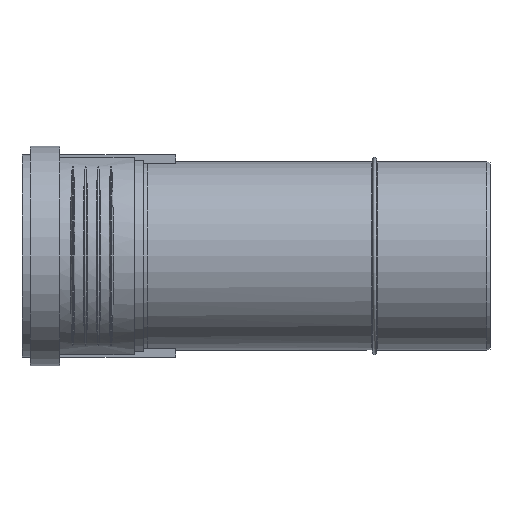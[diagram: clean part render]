
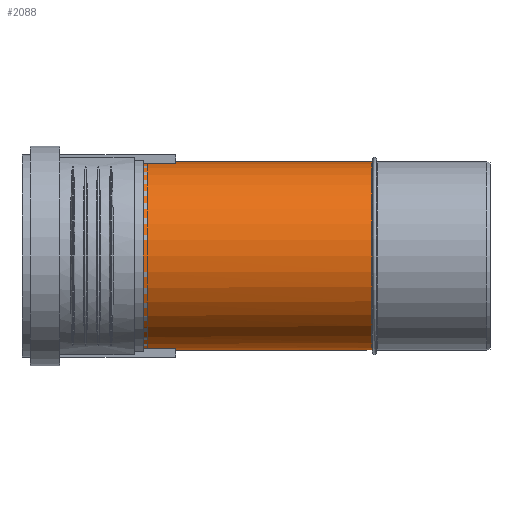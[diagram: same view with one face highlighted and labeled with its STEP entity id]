
A CAD part, left-side view. The second image highlights one B-rep face of the part: STEP entity #2088.
In plain terms, the highlighted cylindrical face has radius 62.6 mm (diameter 125.2 mm), a full revolution.
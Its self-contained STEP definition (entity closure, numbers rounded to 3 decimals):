
#266=CYLINDRICAL_SURFACE($,#2236,62.6);
#437=FACE_BOUND($,#740,.T.);
#498=B_SPLINE_CURVE_WITH_KNOTS($,3,(#3146,#3147,#3148,#3149,#3150,#3151,
#3152,#3153,#3154,#3155,#3156,#3157,#3158,#3159,#3160,#3161,#3162,#3163,
#3164,#3165,#3166,#3167,#3168,#3169,#3170,#3171,#3172,#3173,#3174,#3175,
#3176,#3177,#3178,#3179,#3180,#3181,#3182,#3183,#3184,#3185,#3186,#3187,
#3188,#3189,#3190,#3191,#3192,#3193,#3194,#3195,#3196,#3197,#3198,#3199,
#3200,#3201,#3202,#3203,#3204,#3205,#3206,#3207,#3208,#3209,#3210,#3211),
 .UNSPECIFIED.,.F.,.F.,(4,2,2,2,2,2,2,2,2,2,2,2,2,2,2,2,2,2,2,2,2,2,2,2,
2,2,2,2,2,2,2,2,4),(14.294,14.561,15.94,
17.319,18.478,19.636,21.952,23.94,
25.928,26.484,27.04,27.596,28.153,
28.657,29.162,29.667,30.172,31.263,
32.355,33.446,34.537,35.629,36.72,
37.811,38.903,39.408,39.912,40.417,
40.922,41.478,42.034,42.591,43.147),
 .UNSPECIFIED.);
#499=B_SPLINE_CURVE_WITH_KNOTS($,3,(#3212,#3213,#3214,#3215,#3216,#3217,
#3218,#3219,#3220,#3221,#3222,#3223,#3224,#3225,#3226,#3227,#3228,#3229),
 .UNSPECIFIED.,.F.,.F.,(4,2,2,2,2,2,2,2,4),(0.,1.988,3.976,
6.292,7.45,8.609,9.988,11.367,
11.634),.UNSPECIFIED.);
#609=FACE_OUTER_BOUND($,#739,.T.);
#739=EDGE_LOOP($,(#1526));
#740=EDGE_LOOP($,(#1527,#1528,#1529));
#913=CIRCLE($,#2224,62.6);
#919=CIRCLE($,#2235,62.6);
#1015=VERTEX_POINT($,#3111);
#1020=VERTEX_POINT($,#3125);
#1021=VERTEX_POINT($,#3126);
#1022=VERTEX_POINT($,#3145);
#1227=EDGE_CURVE($,#1015,#1015,#913,.T.);
#1234=EDGE_CURVE($,#1020,#1021,#919,.T.);
#1235=EDGE_CURVE($,#1021,#1022,#498,.T.);
#1236=EDGE_CURVE($,#1022,#1020,#499,.T.);
#1526=ORIENTED_EDGE($,*,*,#1227,.T.);
#1527=ORIENTED_EDGE($,*,*,#1234,.T.);
#1528=ORIENTED_EDGE($,*,*,#1235,.T.);
#1529=ORIENTED_EDGE($,*,*,#1236,.T.);
#2088=ADVANCED_FACE($,(#609,#437),#266,.T.);
#2224=AXIS2_PLACEMENT_3D($,#3112,#2476,#2477);
#2235=AXIS2_PLACEMENT_3D($,#3143,#2498,#2499);
#2236=AXIS2_PLACEMENT_3D($,#3144,#2500,#2501);
#2476=DIRECTION('center_axis',(0.,1.,0.));
#2477=DIRECTION('ref_axis',(1.,0.,0.));
#2498=DIRECTION('center_axis',(0.,-1.,0.));
#2499=DIRECTION('ref_axis',(1.,0.,0.));
#2500=DIRECTION('center_axis',(0.,1.,0.));
#2501=DIRECTION('ref_axis',(1.,0.,0.));
#3111=CARTESIAN_POINT('',(-62.6,78.5,0.));
#3112=CARTESIAN_POINT('Origin',(0.,78.5,0.));
#3125=CARTESIAN_POINT('',(61.175,231.22,13.282));
#3126=CARTESIAN_POINT('',(61.175,231.22,-13.282));
#3143=CARTESIAN_POINT('Origin',(0.,231.22,0.));
#3144=CARTESIAN_POINT('Origin',(0.,0.,0.));
#3145=CARTESIAN_POINT('',(29.711,124.131,55.1));
#3146=CARTESIAN_POINT('Ctrl Pts',(61.175,231.22,-13.282));
#3147=CARTESIAN_POINT('Ctrl Pts',(61.002,230.767,-14.079));
#3148=CARTESIAN_POINT('Ctrl Pts',(60.82,230.29,-14.843));
#3149=CARTESIAN_POINT('Ctrl Pts',(59.677,227.292,-19.295));
#3150=CARTESIAN_POINT('Ctrl Pts',(58.406,223.949,-22.777));
#3151=CARTESIAN_POINT('Ctrl Pts',(55.629,216.572,-28.904));
#3152=CARTESIAN_POINT('Ctrl Pts',(54.126,212.543,-31.557));
#3153=CARTESIAN_POINT('Ctrl Pts',(51.552,205.562,-35.579));
#3154=CARTESIAN_POINT('Ctrl Pts',(50.301,202.138,-37.321));
#3155=CARTESIAN_POINT('Ctrl Pts',(47.728,194.99,-40.56));
#3156=CARTESIAN_POINT('Ctrl Pts',(46.406,191.267,-42.057));
#3157=CARTESIAN_POINT('Ctrl Pts',(42.47,179.931,-46.145));
#3158=CARTESIAN_POINT('Ctrl Pts',(39.886,172.148,-48.326));
#3159=CARTESIAN_POINT('Ctrl Pts',(35.819,158.735,-51.394));
#3160=CARTESIAN_POINT('Ctrl Pts',(33.872,151.838,-52.675));
#3161=CARTESIAN_POINT('Ctrl Pts',(30.817,137.848,-54.519));
#3162=CARTESIAN_POINT('Ctrl Pts',(29.711,130.757,-55.1));
#3163=CARTESIAN_POINT('Ctrl Pts',(29.711,122.277,-55.1));
#3164=CARTESIAN_POINT('Ctrl Pts',(29.799,120.337,-55.053));
#3165=CARTESIAN_POINT('Ctrl Pts',(30.237,116.434,-54.814));
#3166=CARTESIAN_POINT('Ctrl Pts',(30.588,114.471,-54.621));
#3167=CARTESIAN_POINT('Ctrl Pts',(31.588,110.666,-54.049));
#3168=CARTESIAN_POINT('Ctrl Pts',(32.238,108.82,-53.668));
#3169=CARTESIAN_POINT('Ctrl Pts',(33.778,105.361,-52.712));
#3170=CARTESIAN_POINT('Ctrl Pts',(34.667,103.748,-52.137));
#3171=CARTESIAN_POINT('Ctrl Pts',(36.45,100.953,-50.904));
#3172=CARTESIAN_POINT('Ctrl Pts',(37.399,99.648,-50.216));
#3173=CARTESIAN_POINT('Ctrl Pts',(39.422,97.158,-48.645));
#3174=CARTESIAN_POINT('Ctrl Pts',(40.493,95.973,-47.761));
#3175=CARTESIAN_POINT('Ctrl Pts',(42.662,93.757,-45.835));
#3176=CARTESIAN_POINT('Ctrl Pts',(43.759,92.726,-44.791));
#3177=CARTESIAN_POINT('Ctrl Pts',(45.888,90.834,-42.607));
#3178=CARTESIAN_POINT('Ctrl Pts',(46.92,89.972,-41.467));
#3179=CARTESIAN_POINT('Ctrl Pts',(49.964,87.527,-37.852));
#3180=CARTESIAN_POINT('Ctrl Pts',(51.998,86.044,-35.041));
#3181=CARTESIAN_POINT('Ctrl Pts',(55.657,83.498,-28.878));
#3182=CARTESIAN_POINT('Ctrl Pts',(57.282,82.433,-25.527));
#3183=CARTESIAN_POINT('Ctrl Pts',(59.921,80.742,-18.501));
#3184=CARTESIAN_POINT('Ctrl Pts',(60.938,80.114,-14.82));
#3185=CARTESIAN_POINT('Ctrl Pts',(62.277,79.291,-7.388));
#3186=CARTESIAN_POINT('Ctrl Pts',(62.6,79.097,-3.638));
#3187=CARTESIAN_POINT('Ctrl Pts',(62.6,79.097,3.638));
#3188=CARTESIAN_POINT('Ctrl Pts',(62.277,79.291,7.388));
#3189=CARTESIAN_POINT('Ctrl Pts',(60.938,80.114,14.82));
#3190=CARTESIAN_POINT('Ctrl Pts',(59.921,80.742,18.501));
#3191=CARTESIAN_POINT('Ctrl Pts',(57.282,82.433,25.527));
#3192=CARTESIAN_POINT('Ctrl Pts',(55.657,83.498,28.878));
#3193=CARTESIAN_POINT('Ctrl Pts',(51.998,86.044,35.041));
#3194=CARTESIAN_POINT('Ctrl Pts',(49.964,87.527,37.852));
#3195=CARTESIAN_POINT('Ctrl Pts',(46.92,89.972,41.467));
#3196=CARTESIAN_POINT('Ctrl Pts',(45.888,90.834,42.607));
#3197=CARTESIAN_POINT('Ctrl Pts',(43.759,92.726,44.791));
#3198=CARTESIAN_POINT('Ctrl Pts',(42.662,93.757,45.835));
#3199=CARTESIAN_POINT('Ctrl Pts',(40.493,95.973,47.761));
#3200=CARTESIAN_POINT('Ctrl Pts',(39.422,97.158,48.645));
#3201=CARTESIAN_POINT('Ctrl Pts',(37.399,99.648,50.216));
#3202=CARTESIAN_POINT('Ctrl Pts',(36.45,100.953,50.904));
#3203=CARTESIAN_POINT('Ctrl Pts',(34.667,103.748,52.137));
#3204=CARTESIAN_POINT('Ctrl Pts',(33.778,105.361,52.712));
#3205=CARTESIAN_POINT('Ctrl Pts',(32.238,108.82,53.668));
#3206=CARTESIAN_POINT('Ctrl Pts',(31.588,110.666,54.049));
#3207=CARTESIAN_POINT('Ctrl Pts',(30.588,114.471,54.621));
#3208=CARTESIAN_POINT('Ctrl Pts',(30.237,116.434,54.814));
#3209=CARTESIAN_POINT('Ctrl Pts',(29.799,120.337,55.053));
#3210=CARTESIAN_POINT('Ctrl Pts',(29.711,122.277,55.1));
#3211=CARTESIAN_POINT('Ctrl Pts',(29.711,124.131,55.1));
#3212=CARTESIAN_POINT('Ctrl Pts',(29.711,124.131,55.1));
#3213=CARTESIAN_POINT('Ctrl Pts',(29.711,130.757,55.1));
#3214=CARTESIAN_POINT('Ctrl Pts',(30.817,137.848,54.519));
#3215=CARTESIAN_POINT('Ctrl Pts',(33.872,151.838,52.675));
#3216=CARTESIAN_POINT('Ctrl Pts',(35.819,158.735,51.394));
#3217=CARTESIAN_POINT('Ctrl Pts',(39.886,172.148,48.326));
#3218=CARTESIAN_POINT('Ctrl Pts',(42.47,179.931,46.145));
#3219=CARTESIAN_POINT('Ctrl Pts',(46.406,191.267,42.057));
#3220=CARTESIAN_POINT('Ctrl Pts',(47.728,194.99,40.56));
#3221=CARTESIAN_POINT('Ctrl Pts',(50.301,202.138,37.321));
#3222=CARTESIAN_POINT('Ctrl Pts',(51.552,205.562,35.579));
#3223=CARTESIAN_POINT('Ctrl Pts',(54.126,212.543,31.557));
#3224=CARTESIAN_POINT('Ctrl Pts',(55.629,216.572,28.904));
#3225=CARTESIAN_POINT('Ctrl Pts',(58.406,223.949,22.777));
#3226=CARTESIAN_POINT('Ctrl Pts',(59.677,227.292,19.295));
#3227=CARTESIAN_POINT('Ctrl Pts',(60.82,230.29,14.843));
#3228=CARTESIAN_POINT('Ctrl Pts',(61.002,230.767,14.079));
#3229=CARTESIAN_POINT('Ctrl Pts',(61.175,231.22,13.282));
